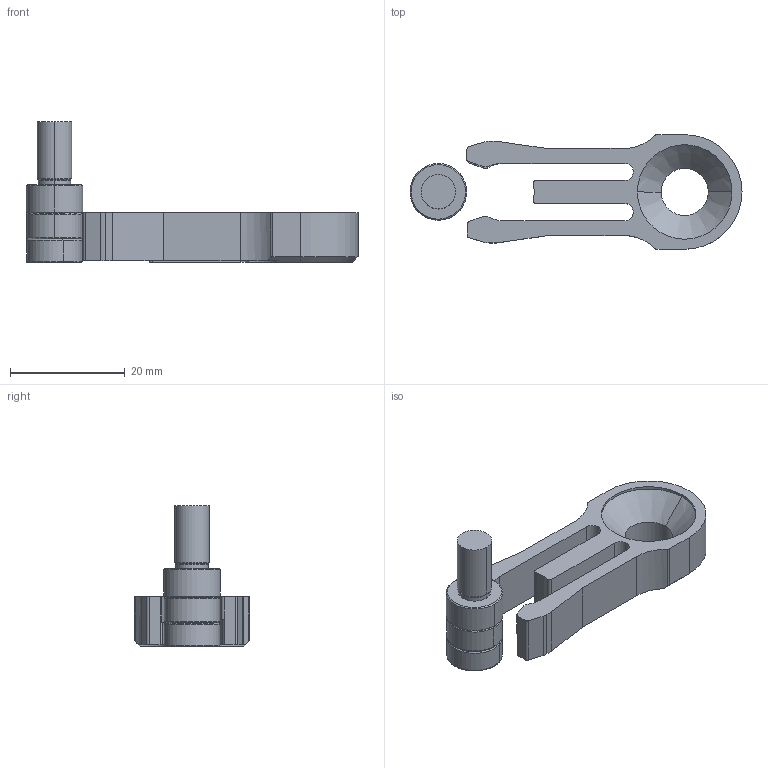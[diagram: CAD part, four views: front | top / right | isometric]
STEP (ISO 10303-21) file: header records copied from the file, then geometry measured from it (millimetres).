
FILE_DESCRIPTION (( 'STEP AP214' ), '1' );
FILE_NAME ('RCM204810.STEP', '2013-07-11T07:23:53', ( '' ), ( '' ), 'SwSTEP 2.0', 'SolidWorks 2011', '' );
FILE_SCHEMA (( 'AUTOMOTIVE_DESIGN' ));
Length unit declared in the file: millimetre
Products named in the file (6): 9RCM204810; TF2010M6 - 1C; TF2010M6; TF2010M6 - 1B; TF2010M6 - 1A; RCM204810
Assembly tree (5 placements, depth 3):
  RCM204810
    TF2010M6
      TF2010M6 - 1C
      TF2010M6 - 1A
      TF2010M6 - 1B
    9RCM204810
Bounding box: 57.95 x 20 x 24.6 mm (x, y, z)
Volume: 5340.3 mm3; surface area: 4341.1 mm2
Topology: 4 solids, 4 shells, 165 faces, 396 edges, 246 vertices
Faces by surface type: cylinder 66, plane 65, cone 22, bspline 12
Entity records: 7004 total; most frequent: CARTESIAN_POINT 1082, DIRECTION 873, ORIENTED_EDGE 792, EDGE_CURVE 396, AXIS2_PLACEMENT_3D 337, VERTEX_POINT 246, LINE 199, VECTOR 199
